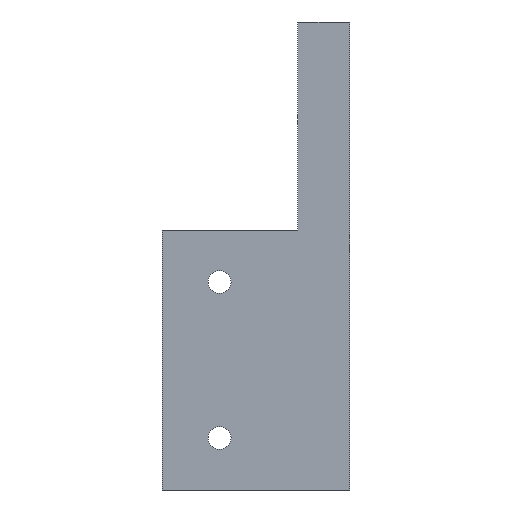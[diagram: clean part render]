
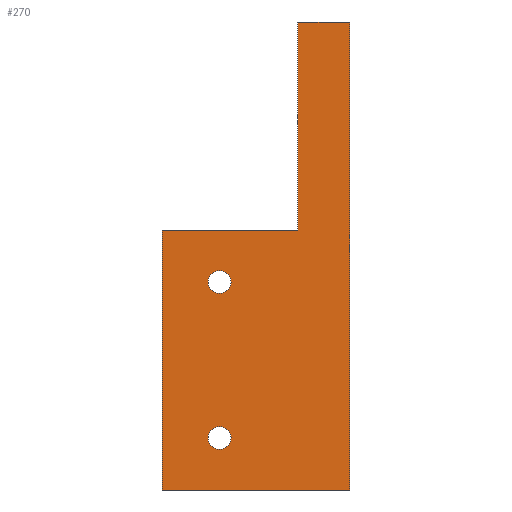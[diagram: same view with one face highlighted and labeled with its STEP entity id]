
A CAD part, left-side view. The second image highlights one B-rep face of the part: STEP entity #270.
In plain terms, the highlighted planar face has unit normal (-1, 0, 0).
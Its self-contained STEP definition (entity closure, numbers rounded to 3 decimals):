
#5 = CARTESIAN_POINT ( 'NONE',  ( 0., 12.5, -17.5 ) ) ;
#14 = VERTEX_POINT ( 'NONE', #506 ) ;
#21 = ORIENTED_EDGE ( 'NONE', *, *, #357, .F. ) ;
#64 = CARTESIAN_POINT ( 'NONE',  ( 0., 12.5, -17.5 ) ) ;
#77 = VERTEX_POINT ( 'NONE', #568 ) ;
#81 = DIRECTION ( 'NONE',  ( 0., 1., 0. ) ) ;
#99 = LINE ( 'NONE', #480, #121 ) ;
#121 = VECTOR ( 'NONE', #325, 1000. ) ;
#136 = VERTEX_POINT ( 'NONE', #679 ) ;
#152 = DIRECTION ( 'NONE',  ( 1., 0., 0. ) ) ;
#156 = DIRECTION ( 'NONE',  ( 0., -1., 0. ) ) ;
#164 = ORIENTED_EDGE ( 'NONE', *, *, #605, .T. ) ;
#169 = ORIENTED_EDGE ( 'NONE', *, *, #378, .T. ) ;
#172 = CARTESIAN_POINT ( 'NONE',  ( 0., -15.042, 2.5 ) ) ;
#179 = VECTOR ( 'NONE', #900, 1000. ) ;
#184 = FACE_BOUND ( 'NONE', #739, .T. ) ;
#189 = CARTESIAN_POINT ( 'NONE',  ( 0., 5., 2.5 ) ) ;
#199 = ORIENTED_EDGE ( 'NONE', *, *, #872, .F. ) ;
#237 = LINE ( 'NONE', #172, #179 ) ;
#243 = DIRECTION ( 'NONE',  ( 1., 0., 0. ) ) ;
#247 = AXIS2_PLACEMENT_3D ( 'NONE', #986, #243, #844 ) ;
#270 = ADVANCED_FACE ( 'NONE', ( #637, #184, #514 ), #962, .F. ) ;
#275 = LINE ( 'NONE', #959, #810 ) ;
#277 = CARTESIAN_POINT ( 'NONE',  ( 0., 0., 22.5 ) ) ;
#289 = CARTESIAN_POINT ( 'NONE',  ( 0., 18., 22.5 ) ) ;
#298 = VERTEX_POINT ( 'NONE', #454 ) ;
#303 = CARTESIAN_POINT ( 'NONE',  ( 0., 13.6, -17.5 ) ) ;
#325 = DIRECTION ( 'NONE',  ( 0., -1., 0. ) ) ;
#331 = CARTESIAN_POINT ( 'NONE',  ( 0., 18., 2.5 ) ) ;
#338 = DIRECTION ( 'NONE',  ( 0., 1., 0. ) ) ;
#357 = EDGE_CURVE ( 'NONE', #391, #298, #99, .T. ) ;
#363 = VERTEX_POINT ( 'NONE', #331 ) ;
#364 = DIRECTION ( 'NONE',  ( 0., 0., 1. ) ) ;
#378 = EDGE_CURVE ( 'NONE', #136, #405, #432, .T. ) ;
#391 = VERTEX_POINT ( 'NONE', #485 ) ;
#401 = EDGE_CURVE ( 'NONE', #644, #497, #614, .T. ) ;
#405 = VERTEX_POINT ( 'NONE', #980 ) ;
#408 = LINE ( 'NONE', #808, #953 ) ;
#426 = ORIENTED_EDGE ( 'NONE', *, *, #966, .T. ) ;
#432 = CIRCLE ( 'NONE', #846, 1.1 ) ;
#454 = CARTESIAN_POINT ( 'NONE',  ( 0., 0., 22.5 ) ) ;
#472 = ORIENTED_EDGE ( 'NONE', *, *, #654, .T. ) ;
#473 = ORIENTED_EDGE ( 'NONE', *, *, #401, .T. ) ;
#480 = CARTESIAN_POINT ( 'NONE',  ( 0., 18., 22.5 ) ) ;
#485 = CARTESIAN_POINT ( 'NONE',  ( 0., 5., 22.5 ) ) ;
#497 = VERTEX_POINT ( 'NONE', #687 ) ;
#500 = VECTOR ( 'NONE', #797, 1000. ) ;
#506 = CARTESIAN_POINT ( 'NONE',  ( 0., 18., -22.5 ) ) ;
#514 = FACE_OUTER_BOUND ( 'NONE', #549, .T. ) ;
#530 = ORIENTED_EDGE ( 'NONE', *, *, #789, .T. ) ;
#549 = EDGE_LOOP ( 'NONE', ( #21, #199, #879, #426, #164, #809 ) ) ;
#568 = CARTESIAN_POINT ( 'NONE',  ( 0., 0., -22.5 ) ) ;
#593 = CARTESIAN_POINT ( 'NONE',  ( 0., 12.5, -2.5 ) ) ;
#605 = EDGE_CURVE ( 'NONE', #14, #77, #408, .T. ) ;
#608 = DIRECTION ( 'NONE',  ( 1., 0., 0. ) ) ;
#614 = CIRCLE ( 'NONE', #713, 1.1 ) ;
#637 = FACE_BOUND ( 'NONE', #1033, .T. ) ;
#644 = VERTEX_POINT ( 'NONE', #303 ) ;
#651 = DIRECTION ( 'NONE',  ( 1., 0., 0. ) ) ;
#654 = EDGE_CURVE ( 'NONE', #497, #644, #917, .T. ) ;
#658 = DIRECTION ( 'NONE',  ( 0., 1., 0. ) ) ;
#679 = CARTESIAN_POINT ( 'NONE',  ( 0., 11.4, -2.5 ) ) ;
#687 = CARTESIAN_POINT ( 'NONE',  ( 0., 11.4, -17.5 ) ) ;
#703 = EDGE_CURVE ( 'NONE', #811, #363, #237, .T. ) ;
#713 = AXIS2_PLACEMENT_3D ( 'NONE', #5, #651, #658 ) ;
#722 = AXIS2_PLACEMENT_3D ( 'NONE', #64, #152, #81 ) ;
#739 = EDGE_LOOP ( 'NONE', ( #530, #169 ) ) ;
#777 = DIRECTION ( 'NONE',  ( 0., 0., -1. ) ) ;
#789 = EDGE_CURVE ( 'NONE', #405, #136, #976, .T. ) ;
#797 = DIRECTION ( 'NONE',  ( 0., 0., -1. ) ) ;
#808 = CARTESIAN_POINT ( 'NONE',  ( 0., 18., -22.5 ) ) ;
#809 = ORIENTED_EDGE ( 'NONE', *, *, #1008, .F. ) ;
#810 = VECTOR ( 'NONE', #364, 1000. ) ;
#811 = VERTEX_POINT ( 'NONE', #189 ) ;
#813 = CARTESIAN_POINT ( 'NONE',  ( 0., 12.5, -2.5 ) ) ;
#829 = VECTOR ( 'NONE', #777, 1000. ) ;
#835 = DIRECTION ( 'NONE',  ( 1., 0., 0. ) ) ;
#844 = DIRECTION ( 'NONE',  ( 0., 1., 0. ) ) ;
#846 = AXIS2_PLACEMENT_3D ( 'NONE', #813, #835, #338 ) ;
#872 = EDGE_CURVE ( 'NONE', #811, #391, #275, .T. ) ;
#879 = ORIENTED_EDGE ( 'NONE', *, *, #703, .T. ) ;
#900 = DIRECTION ( 'NONE',  ( 0., 1., 0. ) ) ;
#917 = CIRCLE ( 'NONE', #722, 1.1 ) ;
#934 = DIRECTION ( 'NONE',  ( 0., 1., 0. ) ) ;
#947 = LINE ( 'NONE', #277, #500 ) ;
#953 = VECTOR ( 'NONE', #156, 1000. ) ;
#959 = CARTESIAN_POINT ( 'NONE',  ( 0., 5., 22.5 ) ) ;
#962 = PLANE ( 'NONE',  #247 ) ;
#966 = EDGE_CURVE ( 'NONE', #363, #14, #1027, .T. ) ;
#976 = CIRCLE ( 'NONE', #1010, 1.1 ) ;
#980 = CARTESIAN_POINT ( 'NONE',  ( 0., 13.6, -2.5 ) ) ;
#986 = CARTESIAN_POINT ( 'NONE',  ( 0., 18., 22.5 ) ) ;
#1008 = EDGE_CURVE ( 'NONE', #298, #77, #947, .T. ) ;
#1010 = AXIS2_PLACEMENT_3D ( 'NONE', #593, #608, #934 ) ;
#1027 = LINE ( 'NONE', #289, #829 ) ;
#1033 = EDGE_LOOP ( 'NONE', ( #473, #472 ) ) ;
